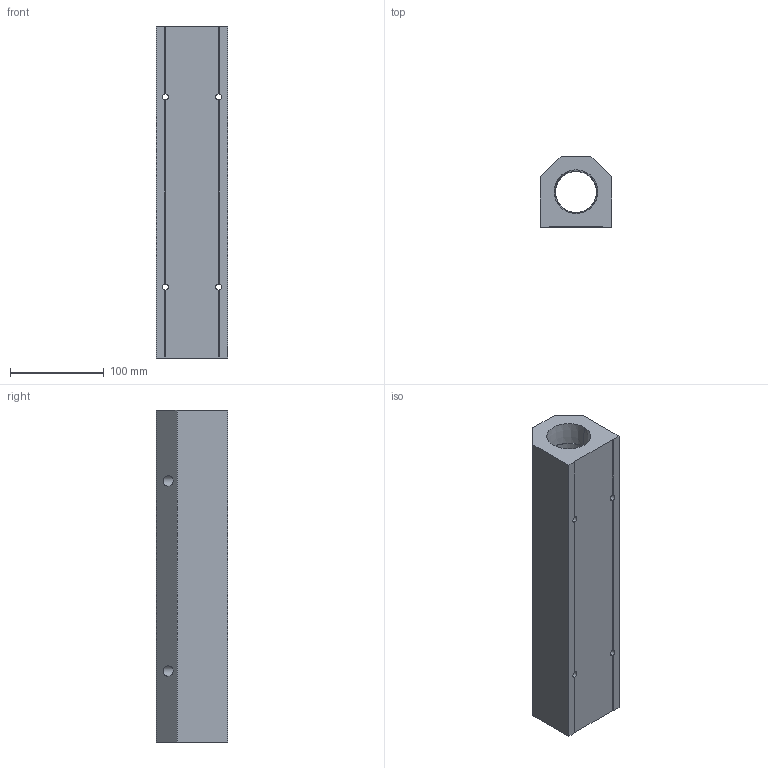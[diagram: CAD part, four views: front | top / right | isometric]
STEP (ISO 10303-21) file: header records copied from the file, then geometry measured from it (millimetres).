
FILE_DESCRIPTION (( 'STEP AP214' ), '1' );
FILE_NAME ('ALM6C-N4N24-355B.step', '2022-02-07T07:46:25', ( '' ), ( '' ), 'SwSTEP 2.0', 'SolidWorks 2020', '' );
FILE_SCHEMA (( 'AUTOMOTIVE_DESIGN' ));
Length unit declared in the file: millimetre
Products named in the file (1): ALM6C-N4N24-355B
Bounding box: 76.2 x 76.2 x 355 mm (x, y, z)
Volume: 1307183.7 mm3; surface area: 163653.3 mm2
Topology: 1 solids, 1 shells, 301 faces, 799 edges, 530 vertices
Faces by surface type: plane 200, bspline 67, cylinder 18, cone 16
Entity records: 16745 total; most frequent: CARTESIAN_POINT 6868, ORIENTED_EDGE 1598, DIRECTION 1155, EDGE_CURVE 799, LINE 589, VECTOR 589, VERTEX_POINT 530, EDGE_LOOP 353
